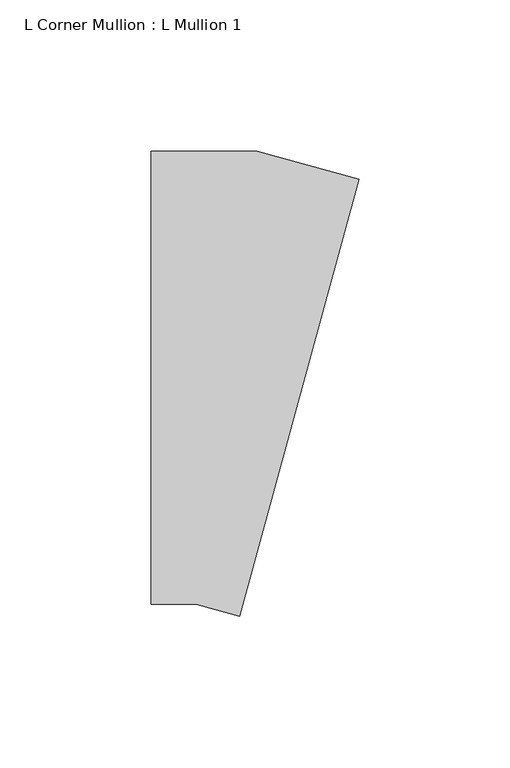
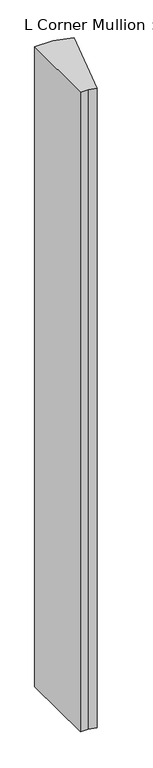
"""IFC4 building model written with IfcOpenShell, lengths in millimetres: member geometry, L Corner Mullion : L Mullion 1."""

from ifc_helpers import new_model, si_unit, frame, origin, place, context, project, spatial, polyline, outline, extrude, source, transform, mapped, element, save


def l_corner_mullion_l_mullion_1_d5afc66c(model_context):
    return source(origin(), model_context, "Body", "SweptSolid", [
        extrude(outline(polyline([(4.3210695, -78.9387633), (-10.0749139, -75.0), (-25.0, -75.0), (-25.0, 75.0), (10.0749139, 75.0), (43.9064024, 65.7436524), (4.3210695, -78.9387633)])), frame((0.0, 0.0, -1281.4459096), z_axis=(0.0, 0.0, 1.0), x_axis=(1.0, 0.0, 0.0)), (0.0, 0.0, 1.0), 1281.4459096),
    ])


if __name__ == "__main__":
    model = new_model("IFC4")
    model_context = context("Model", 3, world=origin())
    ifc_project = project(units=[si_unit("LENGTHUNIT", "METRE", prefix="MILLI")], contexts=[model_context])
    site = spatial("IfcSite", under=ifc_project)
    building = spatial("IfcBuilding", under=site)
    placement = place(None, origin())
    l_corner_mullion_l_mullion_1_shape = l_corner_mullion_l_mullion_1_d5afc66c(model_context)
    element("IfcMember", 1, ObjectType="L Corner Mullion : L Mullion 1", at=placement, inside=building, context=model_context, shape_type="MappedRepresentation", body=[
        mapped(l_corner_mullion_l_mullion_1_shape, transform((0.0, 0.0, 0.0), x_axis=(1.0, 0.0, 0.0), y_axis=(0.0, 1.0, 0.0), z_axis=(0.0, 0.0, 1.0))),
    ])
    save(model, "model.ifc")
